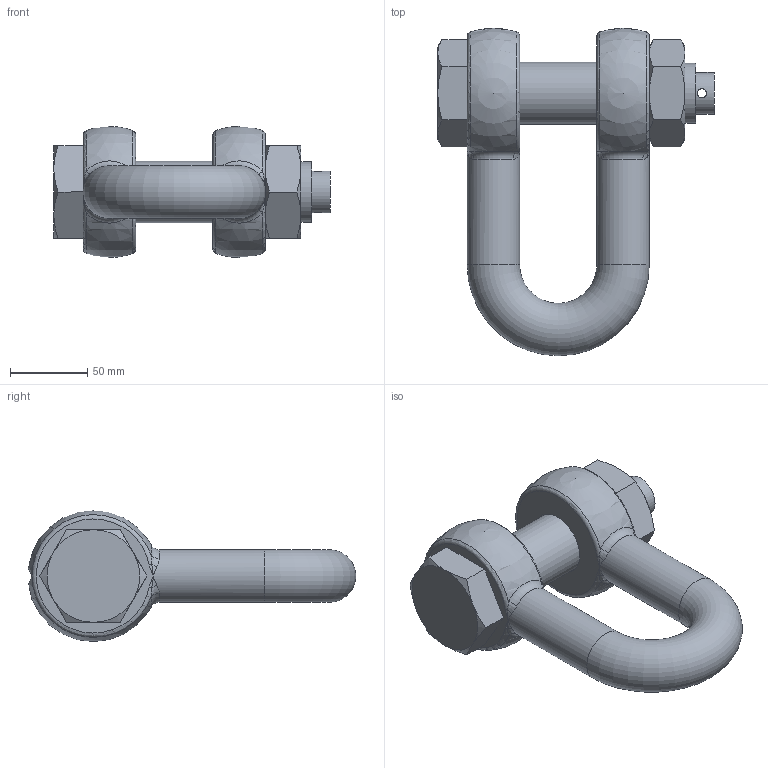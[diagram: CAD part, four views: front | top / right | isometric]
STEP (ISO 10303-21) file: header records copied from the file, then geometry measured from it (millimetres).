
FILE_DESCRIPTION(/* description */ (''),/* implementation_level */ '2;1');
FILE_NAME(/* name */ 'C:\Users\D\Documents\Inventor\HP\吊具\シャックル\SB_2\sb_34.stp',/* time_stamp */ '2024-11-14T11:44:40+09:00',/* author */ ('D'),/* organization */ (''),/* preprocessor_version */ 'ST-DEVELOPER v18',/* originating_system */ 'Autodesk Inventor 2020',/* authorisation */ '');
FILE_SCHEMA (('AUTOMOTIVE_DESIGN { 1 0 10303 214 3 1 1 }'));
Length unit declared in the file: millimetre
Products named in the file (3): sb_34; sb_6; sb_pin_10
Assembly tree (2 placements, depth 2):
  sb_34
    sb_6
    sb_pin_10
Bounding box: 179 x 212.19 x 85 mm (x, y, z)
Volume: 815539.6 mm3; surface area: 103124.5 mm2
Topology: 2 solids, 2 shells, 83 faces, 214 edges, 118 vertices
Faces by surface type: bspline 24, plane 22, cone 18, torus 9, cylinder 8, sphere 2
Full cylindrical faces by diameter (mm): 6 x1, 27 x1, 34 x2, 39 x1, 40 x1, 41 x2
Entity records: 3188 total; most frequent: CARTESIAN_POINT 1379, ORIENTED_EDGE 388, DIRECTION 327, EDGE_CURVE 194, AXIS2_PLACEMENT_3D 150, VERTEX_POINT 118, EDGE_LOOP 92, CIRCLE 86
